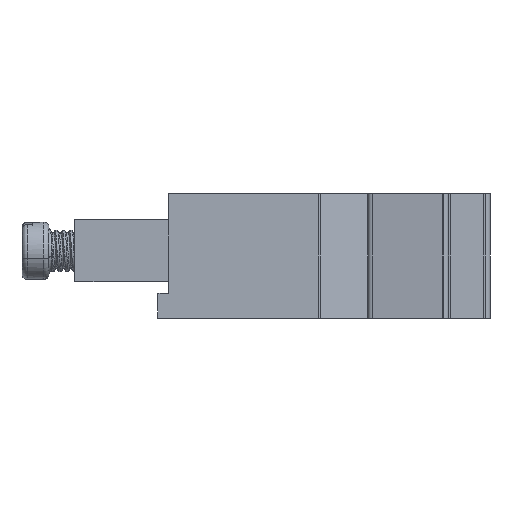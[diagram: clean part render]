
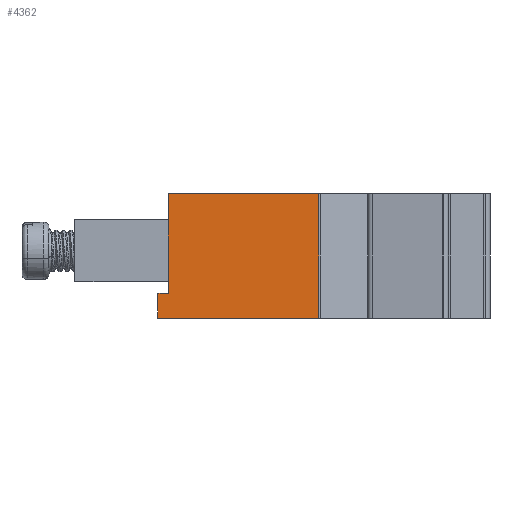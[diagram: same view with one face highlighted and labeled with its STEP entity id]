
A CAD part, left-side view. The second image highlights one B-rep face of the part: STEP entity #4362.
In plain terms, the highlighted planar face has unit normal (-1, 0, 0).
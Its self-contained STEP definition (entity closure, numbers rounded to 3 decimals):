
#220 = VECTOR ( 'NONE', #8275, 1000. ) ;
#624 = VERTEX_POINT ( 'NONE', #3452 ) ;
#734 = PLANE ( 'NONE',  #4417 ) ;
#770 = CARTESIAN_POINT ( 'NONE',  ( 0., 0., 12. ) ) ;
#954 = CARTESIAN_POINT ( 'NONE',  ( 0., 0., 12. ) ) ;
#1459 = ORIENTED_EDGE ( 'NONE', *, *, #1685, .T. ) ;
#1685 = EDGE_CURVE ( 'NONE', #624, #7026, #10302, .T. ) ;
#1703 = VECTOR ( 'NONE', #5106, 1000. ) ;
#1822 = CARTESIAN_POINT ( 'NONE',  ( 0., 1., 2.4 ) ) ;
#1941 = ORIENTED_EDGE ( 'NONE', *, *, #7784, .T. ) ;
#2312 = ORIENTED_EDGE ( 'NONE', *, *, #6140, .T. ) ;
#2375 = CARTESIAN_POINT ( 'NONE',  ( 0., -14.6, 12. ) ) ;
#3018 = ORIENTED_EDGE ( 'NONE', *, *, #9305, .F. ) ;
#3373 = LINE ( 'NONE', #4868, #3646 ) ;
#3452 = CARTESIAN_POINT ( 'NONE',  ( 0., 1., 0. ) ) ;
#3506 = VECTOR ( 'NONE', #9894, 1000. ) ;
#3646 = VECTOR ( 'NONE', #5666, 1000. ) ;
#3863 = LINE ( 'NONE', #1822, #1703 ) ;
#4362 = ADVANCED_FACE ( 'NONE', ( #8349 ), #734, .F. ) ;
#4417 = AXIS2_PLACEMENT_3D ( 'NONE', #2375, #10358, #5599 ) ;
#4865 = VERTEX_POINT ( 'NONE', #8881 ) ;
#4868 = CARTESIAN_POINT ( 'NONE',  ( 0., -14.487, 12. ) ) ;
#5058 = CARTESIAN_POINT ( 'NONE',  ( 0., 0., 2.4 ) ) ;
#5106 = DIRECTION ( 'NONE',  ( 0., 0., -1. ) ) ;
#5118 = CARTESIAN_POINT ( 'NONE',  ( 0., -14.6, 12. ) ) ;
#5149 = VERTEX_POINT ( 'NONE', #7709 ) ;
#5599 = DIRECTION ( 'NONE',  ( 0., 0., -1. ) ) ;
#5666 = DIRECTION ( 'NONE',  ( 0., 0., 1. ) ) ;
#6012 = VERTEX_POINT ( 'NONE', #770 ) ;
#6140 = EDGE_CURVE ( 'NONE', #4865, #5149, #8060, .T. ) ;
#6156 = CARTESIAN_POINT ( 'NONE',  ( 0., -14.487, 12. ) ) ;
#6721 = CARTESIAN_POINT ( 'NONE',  ( 0., -14.6, 0. ) ) ;
#7023 = ORIENTED_EDGE ( 'NONE', *, *, #10070, .T. ) ;
#7026 = VERTEX_POINT ( 'NONE', #9468 ) ;
#7528 = VERTEX_POINT ( 'NONE', #6156 ) ;
#7709 = CARTESIAN_POINT ( 'NONE',  ( 0., 1., 2.4 ) ) ;
#7784 = EDGE_CURVE ( 'NONE', #7026, #7528, #3373, .T. ) ;
#8060 = LINE ( 'NONE', #5058, #220 ) ;
#8256 = VECTOR ( 'NONE', #8327, 1000. ) ;
#8275 = DIRECTION ( 'NONE',  ( 0., 1., 0. ) ) ;
#8278 = VECTOR ( 'NONE', #9043, 1000. ) ;
#8327 = DIRECTION ( 'NONE',  ( 0., -1., 0. ) ) ;
#8349 = FACE_OUTER_BOUND ( 'NONE', #8834, .T. ) ;
#8503 = ORIENTED_EDGE ( 'NONE', *, *, #9178, .T. ) ;
#8834 = EDGE_LOOP ( 'NONE', ( #1459, #1941, #3018, #8503, #2312, #7023 ) ) ;
#8881 = CARTESIAN_POINT ( 'NONE',  ( 0., 0., 2.4 ) ) ;
#9043 = DIRECTION ( 'NONE',  ( 0., 0., -1. ) ) ;
#9178 = EDGE_CURVE ( 'NONE', #6012, #4865, #10322, .T. ) ;
#9305 = EDGE_CURVE ( 'NONE', #6012, #7528, #9633, .T. ) ;
#9468 = CARTESIAN_POINT ( 'NONE',  ( 0., -14.487, 0. ) ) ;
#9633 = LINE ( 'NONE', #5118, #3506 ) ;
#9894 = DIRECTION ( 'NONE',  ( 0., -1., 0. ) ) ;
#10070 = EDGE_CURVE ( 'NONE', #5149, #624, #3863, .T. ) ;
#10302 = LINE ( 'NONE', #6721, #8256 ) ;
#10322 = LINE ( 'NONE', #954, #8278 ) ;
#10358 = DIRECTION ( 'NONE',  ( 1., 0., 0. ) ) ;
